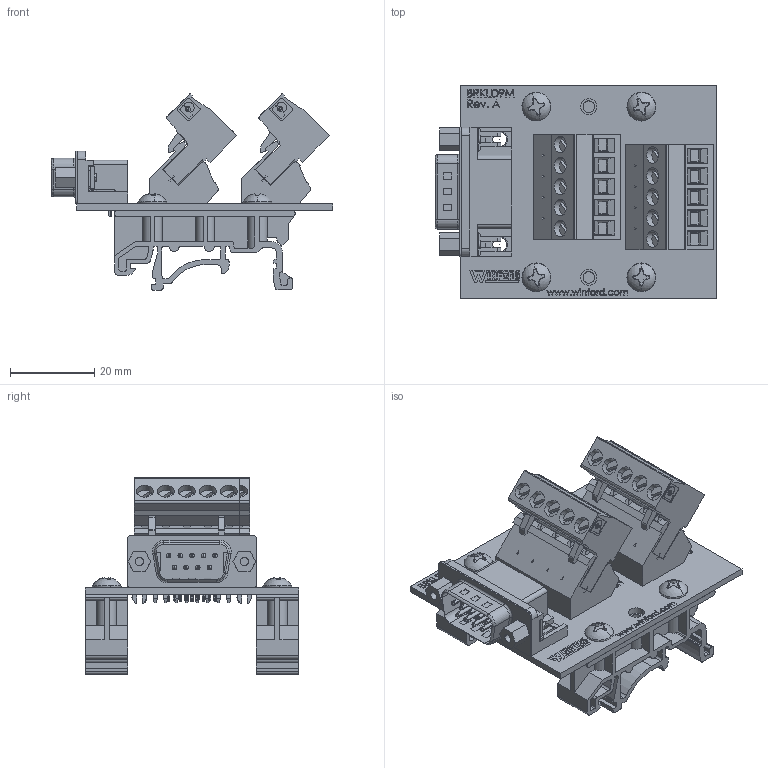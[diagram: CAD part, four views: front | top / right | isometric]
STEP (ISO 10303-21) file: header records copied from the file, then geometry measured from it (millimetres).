
FILE_DESCRIPTION (( 'STEP AP214' ), '1' );
FILE_NAME ('brkld9m-rw-din_rev_a.stp', '2020-11-30T02:12:46', ( '' ), ( '' ), 'SwSTEP 2.0', 'SolidWorks 2017', '' );
FILE_SCHEMA (( 'AUTOMOTIVE_DESIGN' ));
Length unit declared in the file: inch
Products named in the file (7): brkld9m-rw-din_rev_a; DB9 Male Screw; Screw_SCSMPP-6-0.375_90184A127; screw terminal 5 Pos; angled terminals 5; dinm01; BRKLD9M Board
Assembly tree (12 placements, depth 2):
  brkld9m-rw-din_rev_a
    BRKLD9M Board
    DB9 Male Screw
    dinm01  x2
    Screw_SCSMPP-6-0.375_90184A127  x4
    angled terminals 5  x2
    screw terminal 5 Pos  x2
Bounding box: 67.09 x 50.8 x 46.77 mm (x, y, z)
Volume: 24575.7 mm3; surface area: 30017.5 mm2
Topology: 11 solids, 76 shells, 3547 faces, 9846 edges, 6536 vertices
Faces by surface type: plane 2129, cylinder 862, bspline 490, cone 46, torus 12, sphere 8
Entity records: 118859 total; most frequent: CARTESIAN_POINT 38947, ORIENTED_EDGE 13116, DIRECTION 11495, EDGE_CURVE 7114, VECTOR 4793, LINE 4793, VERTEX_POINT 4782, AXIS2_PLACEMENT_3D 3351
